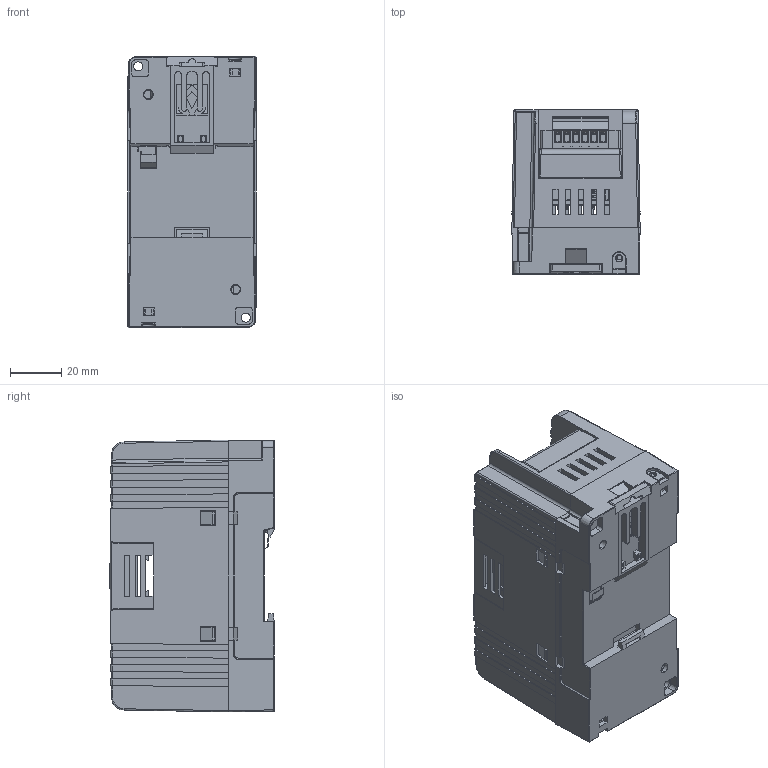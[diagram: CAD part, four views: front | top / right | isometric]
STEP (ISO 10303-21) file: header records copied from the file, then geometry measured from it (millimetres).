
FILE_DESCRIPTION((''),'2;1');
FILE_NAME('SPC-IO-3D-20240521','2024-05-20T09:59:43',('Administrator'),(''),'CREO PARAMETRIC BY PTC INC, 2023073','CREO PARAMETRIC BY PTC INC, 2023073','');
FILE_SCHEMA(('CONFIG_CONTROL_DESIGN','SHAPE_APPEARANCE_LAYERS_GROUPS'));
Products named in the file (1): SPC-IO-3D-20240521
Bounding box: 50 x 64.2 x 106 mm (x, y, z)
Surface area: 136780.7 mm2 (no closed solid volume)
Topology: 0 solids, 31 shells, 7374 faces, 20333 edges, 13435 vertices
Faces by surface type: plane 5538, cylinder 1416, cone 224, extrusion 141, torus 38, bspline 13, sphere 4
Entity records: 287749 total; most frequent: CARTESIAN_POINT 48318, ORIENTED_EDGE 40666, DIRECTION 36272, EDGE_CURVE 20333, VECTOR 15876, LINE 15735, VERTEX_POINT 13435, AXIS2_PLACEMENT_3D 10198
